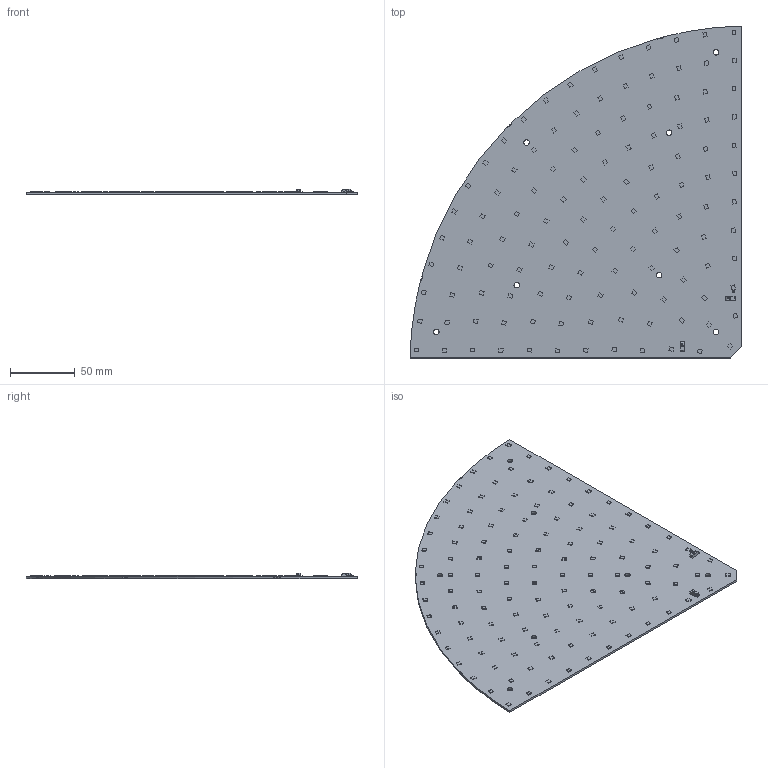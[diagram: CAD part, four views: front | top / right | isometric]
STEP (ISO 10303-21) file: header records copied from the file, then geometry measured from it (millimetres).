
FILE_DESCRIPTION((''),'2;1');
FILE_NAME('16208824_CLE-SHALLOW-G2-D522','2019-01-25T09:50:19',('bernhard.fink'),(''),'CREO PARAMETRIC BY PTC INC, 2017380','CREO PARAMETRIC BY PTC INC, 2017380','');
FILE_SCHEMA(('AUTOMOTIVE_DESIGN { 1 0 10303 214 1 1 1 1 }'));
Length unit declared in the file: millimetre
Products named in the file (1): 16208824_CLE-SHALLOW-G2-D522
Bounding box: 255.95 x 255.95 x 4.35 mm (x, y, z)
Volume: 84460.5 mm3; surface area: 104212.6 mm2
Topology: 1 solids, 1 shells, 741 faces, 1849 edges, 1236 vertices
Faces by surface type: plane 653, cylinder 84, torus 4
Entity records: 33357 total; most frequent: CARTESIAN_POINT 3966, ORIENTED_EDGE 3698, DIRECTION 3485, PRESENTATION_STYLE_ASSIGNMENT 2591, STYLED_ITEM 1850, CURVE_STYLE 1849, EDGE_CURVE 1849, VECTOR 1651
